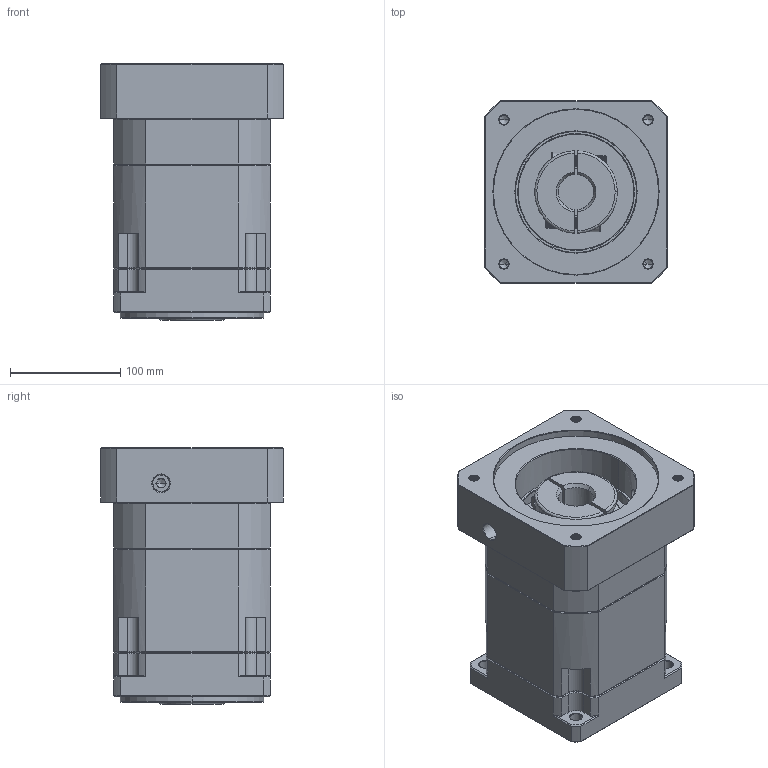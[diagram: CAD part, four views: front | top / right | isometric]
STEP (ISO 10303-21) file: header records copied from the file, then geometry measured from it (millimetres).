
FILE_DESCRIPTION (( 'STEP AP214' ), '1' );
FILE_NAME ('ZB142A-K35-L2-P2-32-150-185-M10.step', '2023-09-01T11:47:24', ( '' ), ( '' ), 'SwSTEP 2.0', 'SolidWorks 2016', '' );
FILE_SCHEMA (( 'AUTOMOTIVE_DESIGN' ));
Length unit declared in the file: millimetre
Products named in the file (1): ZB142A-K35-L2-P2-32-150-185-M10
Bounding box: 166 x 166 x 233.2 mm (x, y, z)
Volume: 4148526 mm3; surface area: 319301.6 mm2
Topology: 6 solids, 6 shells, 2261 faces, 6068 edges, 3910 vertices
Faces by surface type: plane 1096, bspline 404, cylinder 395, cone 346, torus 20
Entity records: 122881 total; most frequent: CARTESIAN_POINT 44501, ORIENTED_EDGE 12080, DIRECTION 9605, EDGE_CURVE 6040, VERTEX_POINT 3910, LINE 3847, VECTOR 3847, AXIS2_PLACEMENT_3D 2879
